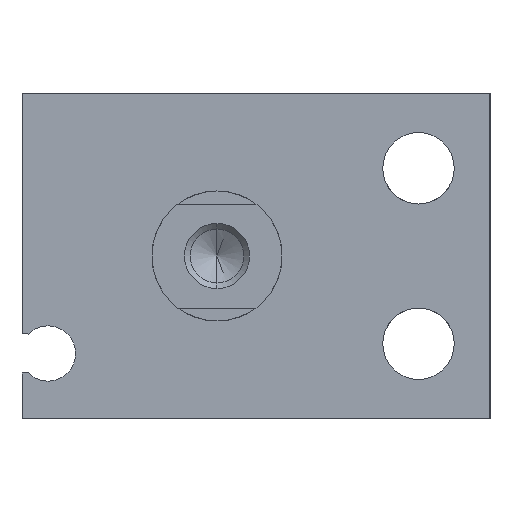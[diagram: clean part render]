
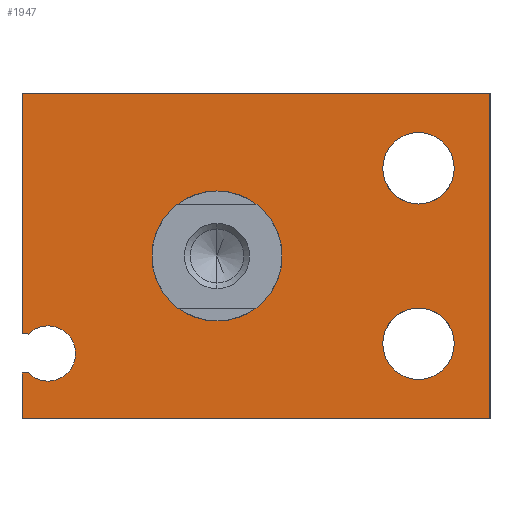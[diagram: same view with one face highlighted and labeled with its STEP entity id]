
A CAD part, left-side view. The second image highlights one B-rep face of the part: STEP entity #1947.
In plain terms, the highlighted planar face has unit normal (-1, 0, 0).
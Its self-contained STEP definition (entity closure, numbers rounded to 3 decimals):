
#43 = ORIENTED_EDGE ( 'NONE', *, *, #2493, .T. ) ;
#56 = ORIENTED_EDGE ( 'NONE', *, *, #1641, .F. ) ;
#57 = EDGE_CURVE ( 'NONE', #3205, #1608, #239, .T. ) ;
#113 = DIRECTION ( 'NONE',  ( 0., 0., 1. ) ) ;
#126 = EDGE_CURVE ( 'NONE', #2923, #2459, #2994, .T. ) ;
#140 = DIRECTION ( 'NONE',  ( 1., 0., 0. ) ) ;
#167 = CARTESIAN_POINT ( 'NONE',  ( 0., 13., -9.625 ) ) ;
#189 = CARTESIAN_POINT ( 'NONE',  ( 0., 0., 0. ) ) ;
#224 = DIRECTION ( 'NONE',  ( 0., 0., -1. ) ) ;
#239 = LINE ( 'NONE', #1248, #2568 ) ;
#245 = DIRECTION ( 'NONE',  ( -1., 0., 0. ) ) ;
#253 = EDGE_CURVE ( 'NONE', #303, #3205, #767, .T. ) ;
#254 = EDGE_CURVE ( 'NONE', #2028, #3203, #1334, .T. ) ;
#299 = EDGE_LOOP ( 'NONE', ( #988, #2443, #1532, #1960, #2660, #415, #2702, #56, #2161, #43 ) ) ;
#303 = VERTEX_POINT ( 'NONE', #1442 ) ;
#321 = CIRCLE ( 'NONE', #1588, 2.125 ) ;
#332 = VERTEX_POINT ( 'NONE', #2679 ) ;
#380 = DIRECTION ( 'NONE',  ( 0., 0., -1. ) ) ;
#411 = FACE_BOUND ( 'NONE', #2905, .T. ) ;
#415 = ORIENTED_EDGE ( 'NONE', *, *, #126, .F. ) ;
#417 = DIRECTION ( 'NONE',  ( 1., 0., 0. ) ) ;
#421 = CARTESIAN_POINT ( 'NONE',  ( 0., 13., -5.375 ) ) ;
#426 = CARTESIAN_POINT ( 'NONE',  ( 0., -15.5, 4. ) ) ;
#458 = DIRECTION ( 'NONE',  ( -1., 0., 0. ) ) ;
#473 = CARTESIAN_POINT ( 'NONE',  ( 0., 15., -6. ) ) ;
#481 = VERTEX_POINT ( 'NONE', #167 ) ;
#494 = VECTOR ( 'NONE', #2902, 1000. ) ;
#514 = EDGE_LOOP ( 'NONE', ( #1171, #1909 ) ) ;
#526 = CARTESIAN_POINT ( 'NONE',  ( 0., 15., -12.5 ) ) ;
#573 = CARTESIAN_POINT ( 'NONE',  ( 0., -21., -12.5 ) ) ;
#589 = CARTESIAN_POINT ( 'NONE',  ( 0., 14.505, -9. ) ) ;
#640 = EDGE_CURVE ( 'NONE', #1791, #303, #1928, .T. ) ;
#667 = CIRCLE ( 'NONE', #820, 5. ) ;
#699 = AXIS2_PLACEMENT_3D ( 'NONE', #1853, #3181, #1397 ) ;
#720 = CARTESIAN_POINT ( 'NONE',  ( 0., 13., -7.5 ) ) ;
#754 = AXIS2_PLACEMENT_3D ( 'NONE', #1349, #1644, #2159 ) ;
#762 = AXIS2_PLACEMENT_3D ( 'NONE', #1857, #2869, #113 ) ;
#767 = LINE ( 'NONE', #573, #1448 ) ;
#803 = LINE ( 'NONE', #998, #1019 ) ;
#813 = CARTESIAN_POINT ( 'NONE',  ( 0., -15.5, -4. ) ) ;
#820 = AXIS2_PLACEMENT_3D ( 'NONE', #189, #140, #1839 ) ;
#851 = EDGE_CURVE ( 'NONE', #891, #3168, #3157, .T. ) ;
#853 = FACE_OUTER_BOUND ( 'NONE', #299, .T. ) ;
#868 = CIRCLE ( 'NONE', #2714, 5. ) ;
#891 = VERTEX_POINT ( 'NONE', #1537 ) ;
#988 = ORIENTED_EDGE ( 'NONE', *, *, #640, .T. ) ;
#993 = DIRECTION ( 'NONE',  ( 0., -1., 0. ) ) ;
#998 = CARTESIAN_POINT ( 'NONE',  ( 0., 14.505, -9. ) ) ;
#1019 = VECTOR ( 'NONE', #2005, 1000. ) ;
#1026 = CARTESIAN_POINT ( 'NONE',  ( 0., -15.5, 6.75 ) ) ;
#1053 = CARTESIAN_POINT ( 'NONE',  ( 0., 15., 12.5 ) ) ;
#1057 = VERTEX_POINT ( 'NONE', #589 ) ;
#1065 = DIRECTION ( 'NONE',  ( -1., 0., 0. ) ) ;
#1074 = CARTESIAN_POINT ( 'NONE',  ( 0., 13., -7.5 ) ) ;
#1112 = LINE ( 'NONE', #1053, #1450 ) ;
#1132 = CARTESIAN_POINT ( 'NONE',  ( 0., 15., 12.5 ) ) ;
#1148 = EDGE_CURVE ( 'NONE', #332, #2459, #2527, .T. ) ;
#1169 = PLANE ( 'NONE',  #762 ) ;
#1171 = ORIENTED_EDGE ( 'NONE', *, *, #2832, .T. ) ;
#1221 = CARTESIAN_POINT ( 'NONE',  ( 0., -15.5, -6.75 ) ) ;
#1235 = CIRCLE ( 'NONE', #754, 2.125 ) ;
#1240 = DIRECTION ( 'NONE',  ( 0., 0., 1. ) ) ;
#1248 = CARTESIAN_POINT ( 'NONE',  ( 0., -21., 12.5 ) ) ;
#1334 = CIRCLE ( 'NONE', #3029, 2.75 ) ;
#1349 = CARTESIAN_POINT ( 'NONE',  ( 0., 13., -7.5 ) ) ;
#1355 = CARTESIAN_POINT ( 'NONE',  ( 0., 0., -5. ) ) ;
#1397 = DIRECTION ( 'NONE',  ( 0., 0., 1. ) ) ;
#1420 = ORIENTED_EDGE ( 'NONE', *, *, #1496, .F. ) ;
#1442 = CARTESIAN_POINT ( 'NONE',  ( 0., -21., -12.5 ) ) ;
#1447 = DIRECTION ( 'NONE',  ( 0., 1., 0. ) ) ;
#1448 = VECTOR ( 'NONE', #2580, 1000. ) ;
#1450 = VECTOR ( 'NONE', #1554, 1000. ) ;
#1485 = DIRECTION ( 'NONE',  ( 0., 0., 1. ) ) ;
#1496 = EDGE_CURVE ( 'NONE', #3168, #891, #3179, .T. ) ;
#1516 = AXIS2_PLACEMENT_3D ( 'NONE', #1074, #2776, #2513 ) ;
#1532 = ORIENTED_EDGE ( 'NONE', *, *, #57, .T. ) ;
#1537 = CARTESIAN_POINT ( 'NONE',  ( 0., -15.5, -9.5 ) ) ;
#1542 = EDGE_CURVE ( 'NONE', #3203, #2028, #1754, .T. ) ;
#1554 = DIRECTION ( 'NONE',  ( 0., 0., -1. ) ) ;
#1588 = AXIS2_PLACEMENT_3D ( 'NONE', #720, #458, #1485 ) ;
#1608 = VERTEX_POINT ( 'NONE', #1132 ) ;
#1631 = ORIENTED_EDGE ( 'NONE', *, *, #254, .F. ) ;
#1637 = EDGE_LOOP ( 'NONE', ( #3228, #1631 ) ) ;
#1641 = EDGE_CURVE ( 'NONE', #1057, #481, #1235, .T. ) ;
#1644 = DIRECTION ( 'NONE',  ( -1., 0., 0. ) ) ;
#1754 = CIRCLE ( 'NONE', #699, 2.75 ) ;
#1791 = VERTEX_POINT ( 'NONE', #526 ) ;
#1815 = ORIENTED_EDGE ( 'NONE', *, *, #851, .F. ) ;
#1839 = DIRECTION ( 'NONE',  ( 0., 0., -1. ) ) ;
#1853 = CARTESIAN_POINT ( 'NONE',  ( 0., -15.5, 6.75 ) ) ;
#1857 = CARTESIAN_POINT ( 'NONE',  ( 0., 13., -7.5 ) ) ;
#1909 = ORIENTED_EDGE ( 'NONE', *, *, #3245, .T. ) ;
#1922 = LINE ( 'NONE', #2483, #1949 ) ;
#1928 = LINE ( 'NONE', #2605, #494 ) ;
#1932 = CARTESIAN_POINT ( 'NONE',  ( 0., -21., 12.5 ) ) ;
#1939 = CARTESIAN_POINT ( 'NONE',  ( 0., 14.505, -6. ) ) ;
#1947 = ADVANCED_FACE ( 'NONE', ( #853, #2178, #411, #2425 ), #1169, .T. ) ;
#1949 = VECTOR ( 'NONE', #224, 1000. ) ;
#1960 = ORIENTED_EDGE ( 'NONE', *, *, #2003, .T. ) ;
#2003 = EDGE_CURVE ( 'NONE', #1608, #332, #1112, .T. ) ;
#2005 = DIRECTION ( 'NONE',  ( 0., 1., 0. ) ) ;
#2028 = VERTEX_POINT ( 'NONE', #426 ) ;
#2080 = VERTEX_POINT ( 'NONE', #3199 ) ;
#2156 = EDGE_CURVE ( 'NONE', #1057, #2080, #803, .T. ) ;
#2159 = DIRECTION ( 'NONE',  ( 0., 0., 1. ) ) ;
#2161 = ORIENTED_EDGE ( 'NONE', *, *, #2156, .T. ) ;
#2168 = CARTESIAN_POINT ( 'NONE',  ( 0., 0., 0. ) ) ;
#2178 = FACE_BOUND ( 'NONE', #514, .T. ) ;
#2337 = DIRECTION ( 'NONE',  ( 0., 0., 1. ) ) ;
#2396 = EDGE_CURVE ( 'NONE', #481, #2923, #321, .T. ) ;
#2405 = VECTOR ( 'NONE', #993, 1000. ) ;
#2422 = AXIS2_PLACEMENT_3D ( 'NONE', #1221, #245, #1240 ) ;
#2425 = FACE_BOUND ( 'NONE', #1637, .T. ) ;
#2443 = ORIENTED_EDGE ( 'NONE', *, *, #253, .T. ) ;
#2459 = VERTEX_POINT ( 'NONE', #1939 ) ;
#2483 = CARTESIAN_POINT ( 'NONE',  ( 0., 15., -9. ) ) ;
#2493 = EDGE_CURVE ( 'NONE', #2080, #1791, #1922, .T. ) ;
#2513 = DIRECTION ( 'NONE',  ( 0., 0., 1. ) ) ;
#2527 = LINE ( 'NONE', #473, #2405 ) ;
#2568 = VECTOR ( 'NONE', #1447, 1000. ) ;
#2572 = CARTESIAN_POINT ( 'NONE',  ( 0., -15.5, -6.75 ) ) ;
#2580 = DIRECTION ( 'NONE',  ( 0., 0., 1. ) ) ;
#2605 = CARTESIAN_POINT ( 'NONE',  ( 0., 15., -12.5 ) ) ;
#2643 = CARTESIAN_POINT ( 'NONE',  ( 0., -15.5, 9.5 ) ) ;
#2660 = ORIENTED_EDGE ( 'NONE', *, *, #1148, .T. ) ;
#2679 = CARTESIAN_POINT ( 'NONE',  ( 0., 15., -6. ) ) ;
#2702 = ORIENTED_EDGE ( 'NONE', *, *, #2396, .F. ) ;
#2714 = AXIS2_PLACEMENT_3D ( 'NONE', #2168, #417, #380 ) ;
#2776 = DIRECTION ( 'NONE',  ( -1., 0., 0. ) ) ;
#2804 = VERTEX_POINT ( 'NONE', #3254 ) ;
#2817 = DIRECTION ( 'NONE',  ( 0., 0., 1. ) ) ;
#2832 = EDGE_CURVE ( 'NONE', #3053, #2804, #667, .T. ) ;
#2869 = DIRECTION ( 'NONE',  ( -1., 0., 0. ) ) ;
#2902 = DIRECTION ( 'NONE',  ( 0., -1., 0. ) ) ;
#2905 = EDGE_LOOP ( 'NONE', ( #1420, #1815 ) ) ;
#2923 = VERTEX_POINT ( 'NONE', #421 ) ;
#2994 = CIRCLE ( 'NONE', #1516, 2.125 ) ;
#3029 = AXIS2_PLACEMENT_3D ( 'NONE', #1026, #3031, #2337 ) ;
#3031 = DIRECTION ( 'NONE',  ( -1., 0., 0. ) ) ;
#3053 = VERTEX_POINT ( 'NONE', #1355 ) ;
#3157 = CIRCLE ( 'NONE', #2422, 2.75 ) ;
#3168 = VERTEX_POINT ( 'NONE', #813 ) ;
#3179 = CIRCLE ( 'NONE', #3232, 2.75 ) ;
#3181 = DIRECTION ( 'NONE',  ( -1., 0., 0. ) ) ;
#3199 = CARTESIAN_POINT ( 'NONE',  ( 0., 15., -9. ) ) ;
#3203 = VERTEX_POINT ( 'NONE', #2643 ) ;
#3205 = VERTEX_POINT ( 'NONE', #1932 ) ;
#3228 = ORIENTED_EDGE ( 'NONE', *, *, #1542, .F. ) ;
#3232 = AXIS2_PLACEMENT_3D ( 'NONE', #2572, #1065, #2817 ) ;
#3245 = EDGE_CURVE ( 'NONE', #2804, #3053, #868, .T. ) ;
#3254 = CARTESIAN_POINT ( 'NONE',  ( 0., 0., 5. ) ) ;
